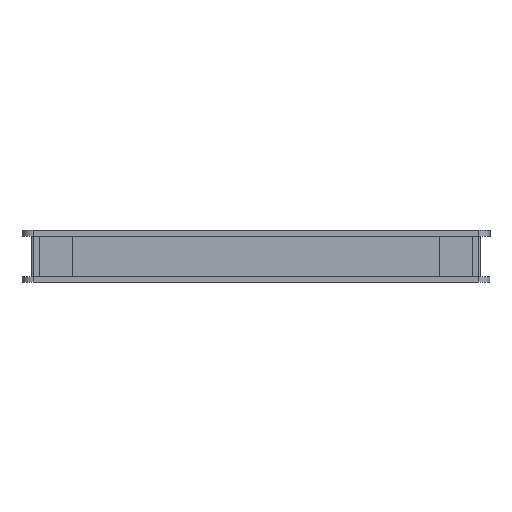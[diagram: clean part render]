
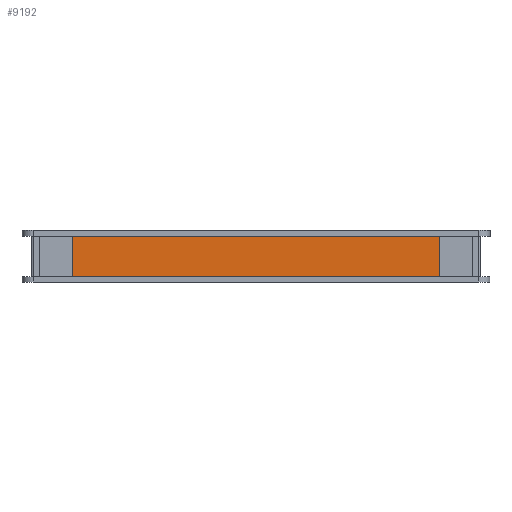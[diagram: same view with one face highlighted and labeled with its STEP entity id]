
A CAD part, left-side view. The second image highlights one B-rep face of the part: STEP entity #9192.
In plain terms, the highlighted planar face has unit normal (-1, 0, 0).
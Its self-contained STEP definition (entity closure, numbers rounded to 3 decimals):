
#180 = DIRECTION ( 'NONE',  ( 0., -1., 0. ) ) ;
#882 = DIRECTION ( 'NONE',  ( 0., 0., 1. ) ) ;
#963 = ORIENTED_EDGE ( 'NONE', *, *, #15406, .F. ) ;
#1602 = FACE_OUTER_BOUND ( 'NONE', #20883, .T. ) ;
#3694 = DIRECTION ( 'NONE',  ( -1., 0., 0. ) ) ;
#3857 = VERTEX_POINT ( 'NONE', #15130 ) ;
#4512 = DIRECTION ( 'NONE',  ( 0., 0., -1. ) ) ;
#4670 = LINE ( 'NONE', #18483, #16791 ) ;
#5181 = VECTOR ( 'NONE', #4512, 1000. ) ;
#5243 = DIRECTION ( 'NONE',  ( 0., 1., 0. ) ) ;
#5363 = CARTESIAN_POINT ( 'NONE',  ( -209.868, 26.517, 22. ) ) ;
#5473 = LINE ( 'NONE', #9701, #11480 ) ;
#6007 = VERTEX_POINT ( 'NONE', #12816 ) ;
#6275 = CARTESIAN_POINT ( 'NONE',  ( -209.868, -181.483, 41.5 ) ) ;
#7249 = CARTESIAN_POINT ( 'NONE',  ( -209.868, 234.517, 41.5 ) ) ;
#7333 = PLANE ( 'NONE',  #15772 ) ;
#8034 = LINE ( 'NONE', #6275, #5181 ) ;
#8053 = CARTESIAN_POINT ( 'NONE',  ( -209.868, 234.517, 2.5 ) ) ;
#8731 = ORIENTED_EDGE ( 'NONE', *, *, #8757, .F. ) ;
#8757 = EDGE_CURVE ( 'NONE', #9006, #3857, #18230, .T. ) ;
#9006 = VERTEX_POINT ( 'NONE', #22846 ) ;
#9192 = ADVANCED_FACE ( 'NONE', ( #1602 ), #7333, .T. ) ;
#9701 = CARTESIAN_POINT ( 'NONE',  ( -209.868, 234.517, 41.5 ) ) ;
#10733 = ORIENTED_EDGE ( 'NONE', *, *, #12061, .F. ) ;
#11480 = VECTOR ( 'NONE', #882, 1000. ) ;
#12061 = EDGE_CURVE ( 'NONE', #13414, #9006, #5473, .T. ) ;
#12816 = CARTESIAN_POINT ( 'NONE',  ( -209.868, -181.483, 2.5 ) ) ;
#12908 = EDGE_CURVE ( 'NONE', #6007, #13414, #4670, .T. ) ;
#13414 = VERTEX_POINT ( 'NONE', #8053 ) ;
#15130 = CARTESIAN_POINT ( 'NONE',  ( -209.868, -181.483, 41.5 ) ) ;
#15292 = DIRECTION ( 'NONE',  ( 0., 1., 0. ) ) ;
#15406 = EDGE_CURVE ( 'NONE', #3857, #6007, #8034, .T. ) ;
#15772 = AXIS2_PLACEMENT_3D ( 'NONE', #5363, #3694, #5243 ) ;
#16791 = VECTOR ( 'NONE', #15292, 1000. ) ;
#16966 = ORIENTED_EDGE ( 'NONE', *, *, #12908, .F. ) ;
#18230 = LINE ( 'NONE', #7249, #22549 ) ;
#18483 = CARTESIAN_POINT ( 'NONE',  ( -209.868, 234.517, 2.5 ) ) ;
#20883 = EDGE_LOOP ( 'NONE', ( #963, #8731, #10733, #16966 ) ) ;
#22549 = VECTOR ( 'NONE', #180, 1000. ) ;
#22846 = CARTESIAN_POINT ( 'NONE',  ( -209.868, 234.517, 41.5 ) ) ;
